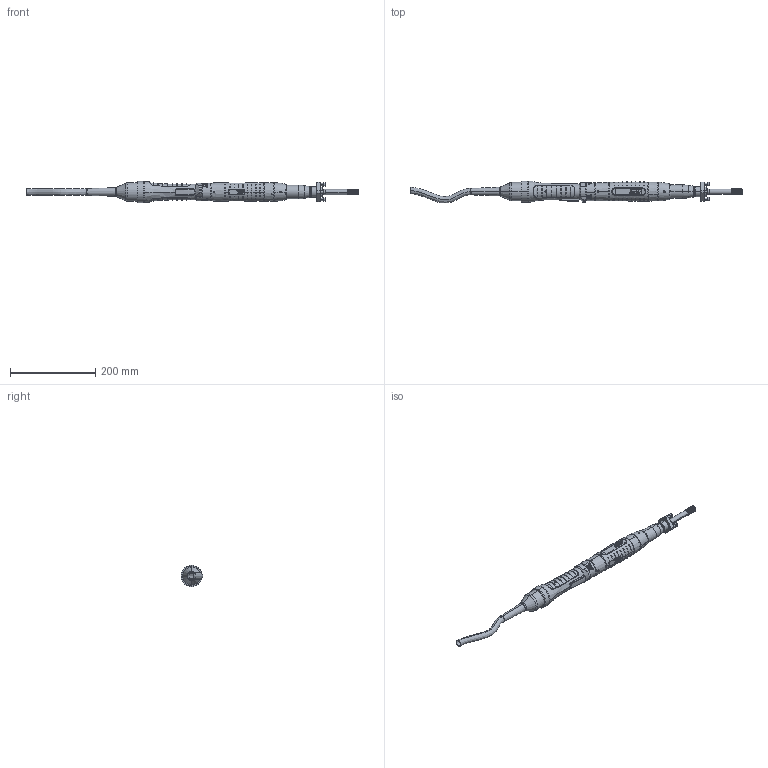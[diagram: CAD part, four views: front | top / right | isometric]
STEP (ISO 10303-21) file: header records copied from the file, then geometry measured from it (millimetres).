
FILE_DESCRIPTION (( 'STEP AP214' ), '1' );
FILE_NAME ('7900189_HCX1030ZF50.STEP', '2007-10-23T15:59:57', ( 'PC262' ), ( 'Alfing Montagetechnik GmbH' ), 'SwSTEP 2.0', 'SolidWorks 2007', '' );
FILE_SCHEMA (( 'AUTOMOTIVE_DESIGN' ));
Length unit declared in the file: millimetre
Products named in the file (1): 7900189_HCX1030ZF50
Bounding box: 778.28 x 51.57 x 49.8 mm (x, y, z)
Surface area: 98365.3 mm2 (no closed solid volume)
Topology: 0 solids, 43 shells, 1050 faces, 3692 edges, 2559 vertices
Faces by surface type: plane 285, cylinder 263, torus 238, bspline 194, cone 64, sphere 6
Entity records: 66130 total; most frequent: CARTESIAN_POINT 26103, ORIENTED_EDGE 5858, DIRECTION 5566, EDGE_CURVE 3674, VERTEX_POINT 2553, AXIS2_PLACEMENT_3D 2247, CIRCLE 1391, EDGE_LOOP 1163
